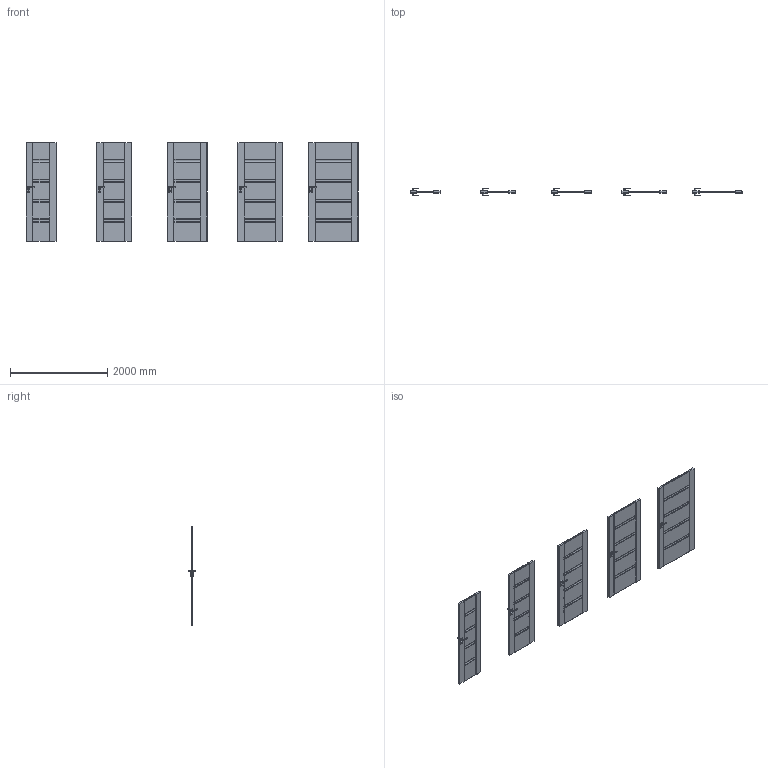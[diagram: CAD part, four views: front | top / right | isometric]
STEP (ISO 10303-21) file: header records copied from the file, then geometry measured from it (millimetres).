
FILE_DESCRIPTION(/* description */ (''),/* implementation_level */ '2;1');
FILE_NAME(/* name */ '049814_A_1-Skrzydło Inspire model C_ polska norma _PN__ bezprzylgowe..stp',/* time_stamp */ '2024-08-23T13:48:46+02:00',/* author */ (''),/* organization */ (''),/* preprocessor_version */ 'ST-DEVELOPER v16',/* originating_system */ 'SIEMENS PLM Software NX 11.0',/* authorisation */ '');
FILE_SCHEMA (('AUTOMOTIVE_DESIGN { 1 0 10303 214 3 1 1 1 }'));
Products named in the file (1): bkni7F6C7DAAo3i8
Bounding box: 6818 x 153.13 x 2017.01 mm (x, y, z)
Volume: 293094790.3 mm3; surface area: 18880037.4 mm2
Topology: 25 solids, 60 shells, 2510 faces, 6755 edges, 4200 vertices
Faces by surface type: plane 1510, cylinder 700, bspline 160, sphere 140
Entity records: 83021 total; most frequent: CARTESIAN_POINT 20694, ORIENTED_EDGE 13230, DIRECTION 12642, EDGE_CURVE 6615, LINE 4580, VECTOR 4580, VERTEX_POINT 4200, AXIS2_PLACEMENT_3D 4031
